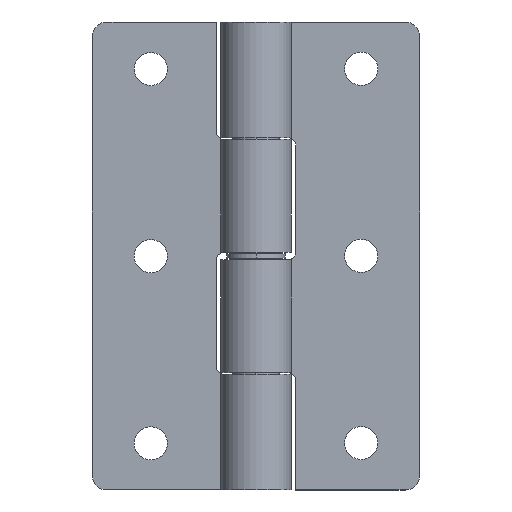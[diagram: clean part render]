
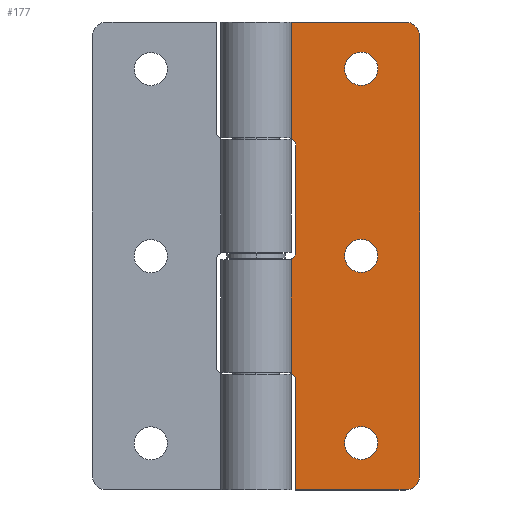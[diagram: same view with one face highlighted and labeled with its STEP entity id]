
A CAD part, top view. The second image highlights one B-rep face of the part: STEP entity #177.
In plain terms, the highlighted planar face has unit normal (0, 0, 1).
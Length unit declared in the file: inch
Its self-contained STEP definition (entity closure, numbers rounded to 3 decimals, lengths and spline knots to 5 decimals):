
#177=ADVANCED_FACE('',(#422,#423,#424,#425),#426,.T.);
#422=FACE_OUTER_BOUND('',#767,.T.);
#423=FACE_BOUND('',#768,.T.);
#424=FACE_BOUND('',#769,.T.);
#425=FACE_BOUND('',#770,.T.);
#426=PLANE('',#771);
#767=EDGE_LOOP('',(#1144,#1145,#1146,#1147,#1148,#1149,#1150,#1151,#1152,#1153,#1154,#1155,#1156,#1157,#1158));
#768=EDGE_LOOP('',(#1159,#1160));
#769=EDGE_LOOP('',(#1161,#1162));
#770=EDGE_LOOP('',(#1163,#1164));
#771=AXIS2_PLACEMENT_3D('',#1165,#1166,#1167);
#1144=ORIENTED_EDGE('',*,*,#2058,.T.);
#1145=ORIENTED_EDGE('',*,*,#2059,.T.);
#1146=ORIENTED_EDGE('',*,*,#2060,.T.);
#1147=ORIENTED_EDGE('',*,*,#2061,.T.);
#1148=ORIENTED_EDGE('',*,*,#2055,.F.);
#1149=ORIENTED_EDGE('',*,*,#2062,.T.);
#1150=ORIENTED_EDGE('',*,*,#2063,.F.);
#1151=ORIENTED_EDGE('',*,*,#2064,.T.);
#1152=ORIENTED_EDGE('',*,*,#2065,.T.);
#1153=ORIENTED_EDGE('',*,*,#2066,.T.);
#1154=ORIENTED_EDGE('',*,*,#2067,.F.);
#1155=ORIENTED_EDGE('',*,*,#2068,.T.);
#1156=ORIENTED_EDGE('',*,*,#2069,.T.);
#1157=ORIENTED_EDGE('',*,*,#2070,.T.);
#1158=ORIENTED_EDGE('',*,*,#2071,.F.);
#1159=ORIENTED_EDGE('',*,*,#2072,.T.);
#1160=ORIENTED_EDGE('',*,*,#2073,.T.);
#1161=ORIENTED_EDGE('',*,*,#2074,.T.);
#1162=ORIENTED_EDGE('',*,*,#2075,.T.);
#1163=ORIENTED_EDGE('',*,*,#2076,.T.);
#1164=ORIENTED_EDGE('',*,*,#2077,.T.);
#1165=CARTESIAN_POINT('',(0.4375,2.5,0.09375));
#1166=DIRECTION('',(0.0,0.,1.0));
#1167=DIRECTION('',(-1.0,0.0,0.0));
#2055=EDGE_CURVE('',#2466,#2468,#2469,.T.);
#2058=EDGE_CURVE('',#2472,#2473,#2474,.T.);
#2059=EDGE_CURVE('',#2473,#2475,#2476,.T.);
#2060=EDGE_CURVE('',#2475,#2477,#2478,.T.);
#2061=EDGE_CURVE('',#2477,#2468,#2479,.T.);
#2062=EDGE_CURVE('',#2466,#2480,#2481,.T.);
#2063=EDGE_CURVE('',#2482,#2480,#2483,.T.);
#2064=EDGE_CURVE('',#2482,#2484,#2485,.T.);
#2065=EDGE_CURVE('',#2484,#2486,#2487,.T.);
#2066=EDGE_CURVE('',#2486,#2488,#2489,.T.);
#2067=EDGE_CURVE('',#2490,#2488,#2491,.T.);
#2068=EDGE_CURVE('',#2490,#2492,#2493,.T.);
#2069=EDGE_CURVE('',#2492,#2494,#2495,.T.);
#2070=EDGE_CURVE('',#2494,#2496,#2497,.T.);
#2071=EDGE_CURVE('',#2472,#2496,#2498,.T.);
#2072=EDGE_CURVE('',#2499,#2500,#2501,.T.);
#2073=EDGE_CURVE('',#2500,#2499,#2502,.T.);
#2074=EDGE_CURVE('',#2503,#2504,#2505,.T.);
#2075=EDGE_CURVE('',#2504,#2503,#2506,.T.);
#2076=EDGE_CURVE('',#2507,#2508,#2509,.T.);
#2077=EDGE_CURVE('',#2508,#2507,#2510,.T.);
#2466=VERTEX_POINT('',#3036);
#2468=VERTEX_POINT('',#3039);
#2469=CIRCLE('',#3040,0.03937);
#2472=VERTEX_POINT('',#3044);
#2473=VERTEX_POINT('',#3045);
#2474=CIRCLE('',#3046,0.07874);
#2475=VERTEX_POINT('',#3047);
#2476=LINE('',#3048,#3049);
#2477=VERTEX_POINT('',#3050);
#2478=LINE('',#3051,#3052);
#2479=LINE('',#3053,#3054);
#2480=VERTEX_POINT('',#3055);
#2481=LINE('',#3056,#3057);
#2482=VERTEX_POINT('',#3058);
#2483=CIRCLE('',#3059,0.03937);
#2484=VERTEX_POINT('',#3060);
#2485=LINE('',#3061,#3062);
#2486=VERTEX_POINT('',#3063);
#2487=LINE('',#3064,#3065);
#2488=VERTEX_POINT('',#3066);
#2489=LINE('',#3067,#3068);
#2490=VERTEX_POINT('',#3069);
#2491=CIRCLE('',#3070,0.03937);
#2492=VERTEX_POINT('',#3071);
#2493=LINE('',#3072,#3073);
#2494=VERTEX_POINT('',#3074);
#2495=LINE('',#3075,#3076);
#2496=VERTEX_POINT('',#3077);
#2497=CIRCLE('',#3078,0.07874);
#2498=LINE('',#3079,#3080);
#2499=VERTEX_POINT('',#3081);
#2500=VERTEX_POINT('',#3082);
#2501=CIRCLE('',#3083,0.0885);
#2502=CIRCLE('',#3084,0.0885);
#2503=VERTEX_POINT('',#3085);
#2504=VERTEX_POINT('',#3086);
#2505=CIRCLE('',#3087,0.0885);
#2506=CIRCLE('',#3088,0.0885);
#2507=VERTEX_POINT('',#3089);
#2508=VERTEX_POINT('',#3090);
#2509=CIRCLE('',#3091,0.0885);
#2510=CIRCLE('',#3092,0.0885);
#3036=CARTESIAN_POINT('',(0.21161,1.84313,0.09375));
#3039=CARTESIAN_POINT('',(0.17224,1.8825,0.09375));
#3040=AXIS2_PLACEMENT_3D('',#3715,#3716,#3717);
#3044=CARTESIAN_POINT('',(0.875,2.42126,0.09375));
#3045=CARTESIAN_POINT('',(0.79626,2.5,0.09375));
#3046=AXIS2_PLACEMENT_3D('',#3719,#3720,#3721);
#3047=CARTESIAN_POINT('',(0.,2.5,0.09375));
#3048=CARTESIAN_POINT('',(0.875,2.5,0.09375));
#3049=VECTOR('',#3722,0.3937);
#3050=CARTESIAN_POINT('',(0.,1.8825,0.09375));
#3051=CARTESIAN_POINT('',(0.,2.5,0.09375));
#3052=VECTOR('',#3723,0.3937);
#3053=CARTESIAN_POINT('',(0.32456,1.8825,0.09375));
#3054=VECTOR('',#3724,0.3937);
#3055=CARTESIAN_POINT('',(0.21161,1.26937,0.09375));
#3056=CARTESIAN_POINT('',(0.21161,1.865,0.09375));
#3057=VECTOR('',#3725,0.3937);
#3058=CARTESIAN_POINT('',(0.17224,1.23,0.09375));
#3059=AXIS2_PLACEMENT_3D('',#3726,#3727,#3728);
#3060=CARTESIAN_POINT('',(0.,1.23,0.09375));
#3061=CARTESIAN_POINT('',(0.03124,1.23,0.09375));
#3062=VECTOR('',#3729,0.3937);
#3063=CARTESIAN_POINT('',(0.,0.6275,0.09375));
#3064=CARTESIAN_POINT('',(0.,2.5,0.09375));
#3065=VECTOR('',#3730,0.3937);
#3066=CARTESIAN_POINT('',(0.17224,0.6275,0.09375));
#3067=CARTESIAN_POINT('',(0.32456,0.6275,0.09375));
#3068=VECTOR('',#3731,0.3937);
#3069=CARTESIAN_POINT('',(0.21161,0.58813,0.09375));
#3070=AXIS2_PLACEMENT_3D('',#3732,#3733,#3734);
#3071=CARTESIAN_POINT('',(0.21161,0.,0.09375));
#3072=CARTESIAN_POINT('',(0.21161,1.245,0.09375));
#3073=VECTOR('',#3735,0.3937);
#3074=CARTESIAN_POINT('',(0.79626,0.,0.09375));
#3075=CARTESIAN_POINT('',(0.875,0.,0.09375));
#3076=VECTOR('',#3736,0.3937);
#3077=CARTESIAN_POINT('',(0.875,0.07874,0.09375));
#3078=AXIS2_PLACEMENT_3D('',#3737,#3738,#3739);
#3079=CARTESIAN_POINT('',(0.875,2.5,0.09375));
#3080=VECTOR('',#3740,0.3937);
#3081=CARTESIAN_POINT('',(0.651,0.25083,0.09375));
#3082=CARTESIAN_POINT('',(0.474,0.25083,0.09375));
#3083=AXIS2_PLACEMENT_3D('',#3741,#3742,#3743);
#3084=AXIS2_PLACEMENT_3D('',#3744,#3745,#3746);
#3085=CARTESIAN_POINT('',(0.651,1.25083,0.09375));
#3086=CARTESIAN_POINT('',(0.474,1.25083,0.09375));
#3087=AXIS2_PLACEMENT_3D('',#3747,#3748,#3749);
#3088=AXIS2_PLACEMENT_3D('',#3750,#3751,#3752);
#3089=CARTESIAN_POINT('',(0.651,2.25083,0.09375));
#3090=CARTESIAN_POINT('',(0.474,2.25083,0.09375));
#3091=AXIS2_PLACEMENT_3D('',#3753,#3754,#3755);
#3092=AXIS2_PLACEMENT_3D('',#3756,#3757,#3758);
#3715=CARTESIAN_POINT('',(0.17224,1.84313,0.09375));
#3716=DIRECTION('',(0.,0.,1.0));
#3717=DIRECTION('',(0.,1.0,0.));
#3719=CARTESIAN_POINT('',(0.79626,2.42126,0.09375));
#3720=DIRECTION('',(0.,0.,1.0));
#3721=DIRECTION('',(0.,1.0,0.));
#3722=DIRECTION('',(-1.0,0.0,0.0));
#3723=DIRECTION('',(0.0,-1.0,0.));
#3724=DIRECTION('',(1.0,0.0,0.0));
#3725=DIRECTION('',(0.0,-1.0,0.));
#3726=CARTESIAN_POINT('',(0.17224,1.26937,0.09375));
#3727=DIRECTION('',(0.,0.,1.0));
#3728=DIRECTION('',(1.0,0.,0.));
#3729=DIRECTION('',(-1.0,0.0,0.0));
#3730=DIRECTION('',(0.0,-1.0,0.));
#3731=DIRECTION('',(1.0,0.0,0.0));
#3732=CARTESIAN_POINT('',(0.17224,0.58813,0.09375));
#3733=DIRECTION('',(0.,0.,1.0));
#3734=DIRECTION('',(0.,1.0,0.));
#3735=DIRECTION('',(0.0,-1.0,0.));
#3736=DIRECTION('',(1.0,0.0,0.0));
#3737=CARTESIAN_POINT('',(0.79626,0.07874,0.09375));
#3738=DIRECTION('',(0.,0.,1.0));
#3739=DIRECTION('',(1.0,0.,0.0));
#3740=DIRECTION('',(0.0,-1.0,0.));
#3741=CARTESIAN_POINT('',(0.5625,0.25083,0.09375));
#3742=DIRECTION('',(0.,0.,-1.0));
#3743=DIRECTION('',(1.0,0.,0.));
#3744=CARTESIAN_POINT('',(0.5625,0.25083,0.09375));
#3745=DIRECTION('',(0.,0.,-1.0));
#3746=DIRECTION('',(1.0,0.,0.));
#3747=CARTESIAN_POINT('',(0.5625,1.25083,0.09375));
#3748=DIRECTION('',(0.,0.,-1.0));
#3749=DIRECTION('',(1.0,0.,0.));
#3750=CARTESIAN_POINT('',(0.5625,1.25083,0.09375));
#3751=DIRECTION('',(0.,0.,-1.0));
#3752=DIRECTION('',(1.0,0.,0.));
#3753=CARTESIAN_POINT('',(0.5625,2.25083,0.09375));
#3754=DIRECTION('',(0.,0.,-1.0));
#3755=DIRECTION('',(1.0,0.,0.));
#3756=CARTESIAN_POINT('',(0.5625,2.25083,0.09375));
#3757=DIRECTION('',(0.,0.,-1.0));
#3758=DIRECTION('',(1.0,0.,0.));
